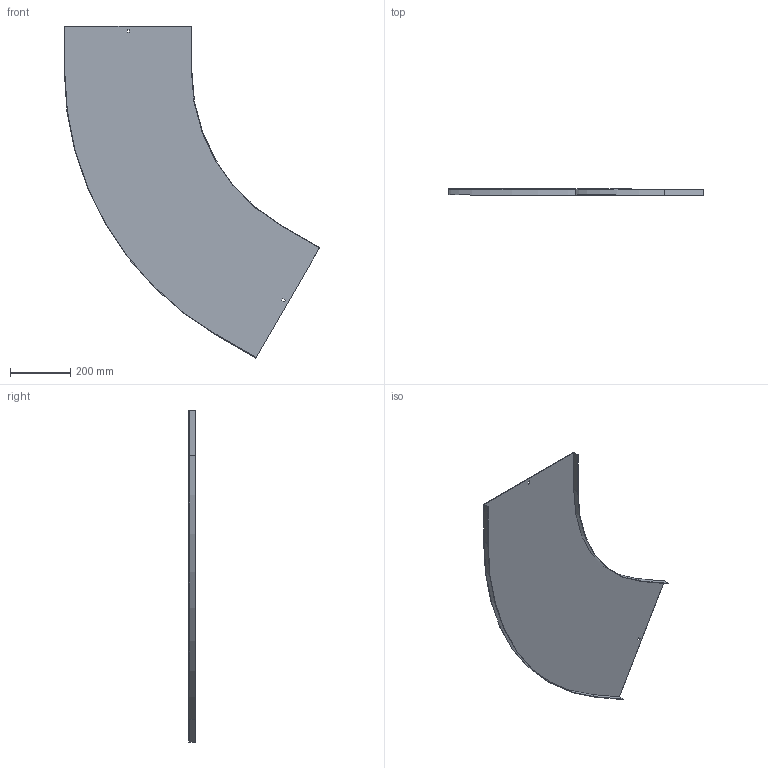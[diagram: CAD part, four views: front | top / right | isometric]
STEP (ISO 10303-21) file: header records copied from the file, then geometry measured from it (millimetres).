
FILE_DESCRIPTION (( 'STEP AP214' ), '1' );
FILE_NAME ('13N6P400.step', '2025-02-21T13:36:06', ( '' ), ( '' ), 'SwSTEP 2.0', 'SolidWorks 2023', '' );
FILE_SCHEMA (( 'AUTOMOTIVE_DESIGN' ));
Length unit declared in the file: millimetre
Products named in the file (1): 13N6P400
Bounding box: 847.15 x 20 x 1100.98 mm (x, y, z)
Volume: 784877.5 mm3; surface area: 1051389.7 mm2
Topology: 1 solids, 1 shells, 26 faces, 72 edges, 48 vertices
Faces by surface type: plane 22, cylinder 4
Entity records: 855 total; most frequent: CARTESIAN_POINT 147, ORIENTED_EDGE 144, DIRECTION 134, EDGE_CURVE 72, VECTOR 64, LINE 64, VERTEX_POINT 48, AXIS2_PLACEMENT_3D 35
